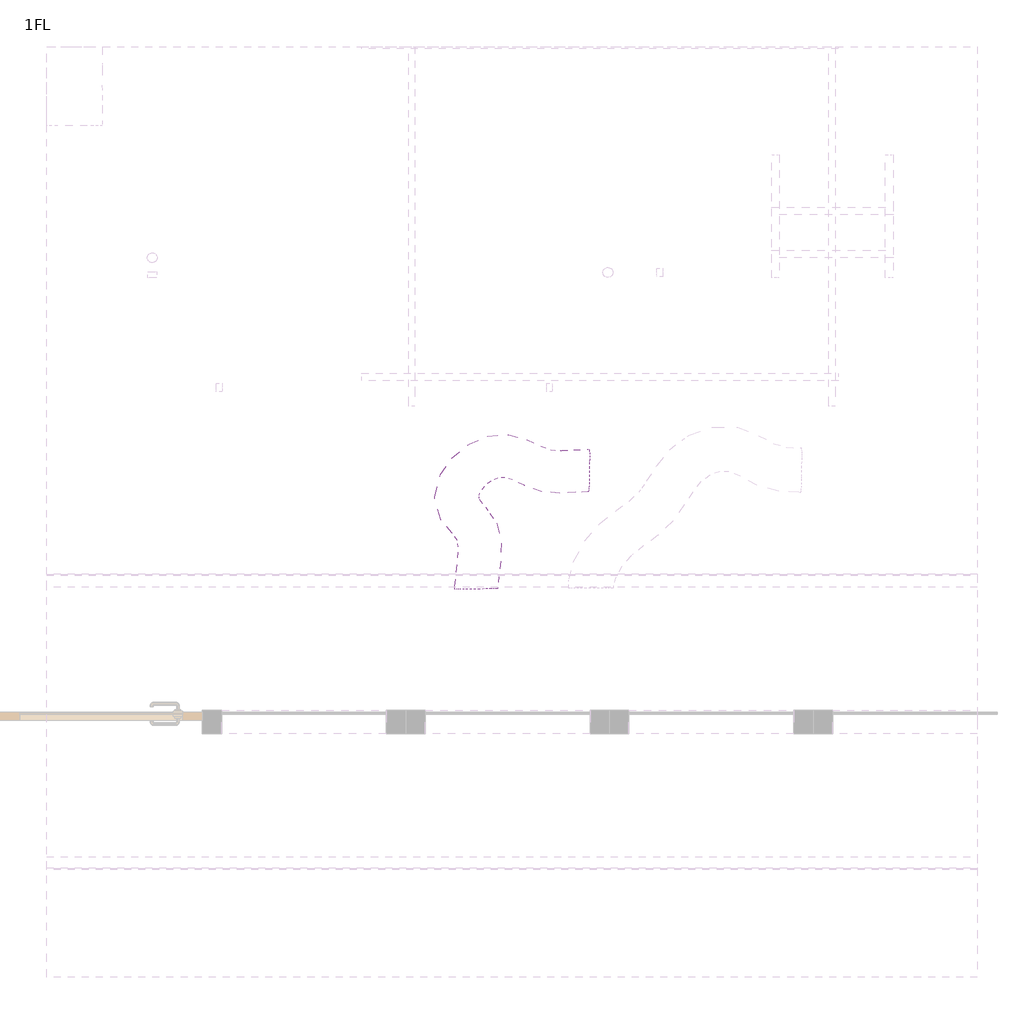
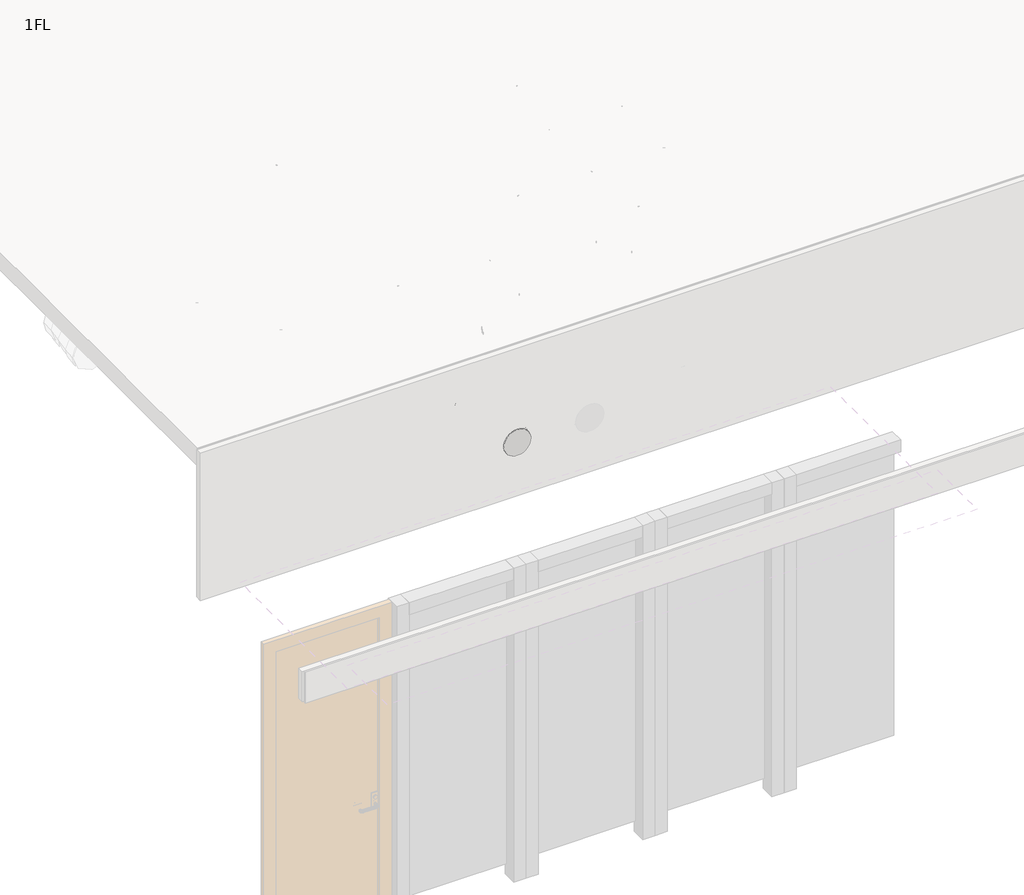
# One storey, part 6 of 13: 1 duct segment.
"""IFC4 building model written with IfcOpenShell, lengths in millimetres."""

from ifc_helpers import new_model, si_unit, frame, origin, place, context, project, spatial, circle_curve, ellipse_curve, element, save
from ifc_brep_helpers import plane_surface, cylinder_surface, advanced_brep

model = new_model("IFC4")

# Units and contexts
model_context = context("Model", 3, world=origin())
ifc_project = project(units=[si_unit("LENGTHUNIT", "METRE", prefix="MILLI")], contexts=[model_context])

# Site, building, storey
site = spatial("IfcSite", under=ifc_project)
building = spatial("IfcBuilding", under=site)
storey = spatial("IfcBuildingStorey", under=building, Name="1FL", Elevation=500.0)

# Duct segment
placement = place(None, origin())
element("IfcDuctSegment", 1, ObjectType="フレキシブル - 円形", at=placement, inside=storey, context=model_context, shape_type="AdvancedBrep", body=[
    advanced_brep(
    [(14731.3428609, -3694.8580782, 3516.0799389), (14735.0189875, -3584.9041559, 3406.0952988), (14735.0192442, -3474.8887981, 3516.0799389), (14731.3431176, -3584.8427204, 3626.064579), (14726.4560319, -3694.7764038, 3515.9982531), (14731.3562958, -3584.8429407, 3406.0340751), (14723.0650908, -3474.6890063, 3515.8801193), (14718.1648269, -3584.6224695, 3625.8442973), (14215.0861552, -4195.0526918, 3575.1539181), (14242.3549173, -4194.7788256, 3728.3085445), (14089.2080144, -4196.3169138, 3755.5786819), (14061.9392522, -4196.59078, 3602.4240554), (14664.11511, -3697.7557669, 3509.5429814), (14673.0779562, -3587.628147, 3399.9994753), (14653.2321259, -3478.026425, 3508.6490622), (14644.2692797, -3588.1540448, 3618.1925683), (14582.291013, -3702.040029, 3496.3709836), (14598.6090432, -3591.527296, 3388.0115109), (14586.5977692, -3481.5153611, 3497.9223003), (14570.279739, -3592.0280941, 3606.281773), (14488.2661964, -3693.3071193, 3487.0941649), (14514.0158466, -3583.6703836, 3379.6652489), (14536.1792989, -3476.8325554, 3492.947837), (14510.4296487, -3586.4692911, 3600.3767529), (14401.5411536, -3662.292776, 3493.7276031), (14429.9221638, -3553.5970591, 3386.0974193), (14484.754004, -3458.4419994, 3496.8812627), (14456.3729938, -3567.1377163, 3604.5114465), (14336.903611, -3632.7646967, 3507.9315686), (14353.2894079, -3518.5892604, 3402.9373079), (14414.2247612, -3426.2224412, 3512.379917), (14397.8389643, -3540.3978776, 3617.3741777), (14293.3820285, -3620.3610371, 3519.6718595), (14280.3110521, -3497.7904145, 3422.6237962), (14320.6032421, -3399.5402897, 3537.6350618), (14333.6742184, -3522.1109123, 3634.683125), (14257.9533163, -3623.0055551, 3528.7814084), (14204.4915174, -3503.4498391, 3442.1187685), (14215.0613204, -3407.418293, 3564.7723536), (14268.5231193, -3526.974009, 3651.4349935), (14217.6624406, -3640.4058261, 3540.9281427), (14126.7012873, -3537.0448172, 3465.5706604), (14119.6925061, -3448.6048691, 3593.5237678), (14210.6536595, -3551.965878, 3668.8812501), (14177.2272489, -3673.9894551, 3559.0844322), (14056.1989612, -3595.6008389, 3497.2277538), (14041.6403729, -3513.4314169, 3628.5708905), (14162.6686606, -3591.8200331, 3690.4275689), (14148.4692287, -3715.8923626, 3580.4970543), (14003.7045128, -3672.0897627, 3536.3140253), (13984.8696041, -3596.151307, 3670.8412209), (14129.63432, -3639.9539069, 3715.0242499), (14139.6224004, -3750.6069368, 3597.56946), (13980.9211847, -3761.4905631, 3580.2807675), (13959.7160092, -3694.8529326, 3719.3820495), (14118.4172249, -3683.9693063, 3736.670742), (14146.9487655, -3776.1488206, 3609.6060384), (14005.489926, -3847.1444891, 3620.645065), (13988.2026504, -3794.1658207, 3766.1831145), (14129.6614898, -3723.1701522, 3755.1440879), (14177.6288835, -3813.1381235, 3623.510456), (14052.5330839, -3903.8617945, 3641.9653126), (14050.4444385, -3869.2072649, 3794.3914746), (14175.5402381, -3778.4835939, 3775.9366179), (14217.980166, -3870.970461, 3630.0285233), (14073.9160739, -3934.5083617, 3645.4193731), (14092.5408951, -3929.5408237, 3801.1914453), (14236.6049872, -3866.002923, 3785.8005956), (14234.7193099, -3946.8751763, 3619.935017), (14080.5464824, -3964.5743719, 3641.4213149), (14105.8500302, -3989.8919457, 3793.1661938), (14260.0228577, -3972.1927502, 3771.6798959), (14231.3825648, -4028.511694, 3601.1356085), (14078.2121834, -4021.6851314, 3628.2697435), (14103.1034296, -4057.0900396, 3777.6916922), (14256.2738111, -4063.9166023, 3750.5575573), (14220.7815867, -4111.7115795, 3583.1997862), (14068.1910226, -4100.3344239, 3611.3149156), (14094.0818725, -4127.8941215, 3762.4280963), (14246.6724366, -4139.2712771, 3734.3129669), (14214.9561627, -4182.1093866, 3575.1539181), (14061.7538017, -4178.1255397, 3602.4240554), (14089.122713, -4187.823485, 3755.5786819), (14242.325074, -4191.8073319, 3728.3085445)],
    [
        (0, 1, circle_curve(frame((14733.1810525, -3584.8734381, 3516.0799389), z_axis=(0.9997207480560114, -0.016708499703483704, 0.016710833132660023), x_axis=(-0.016710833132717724, -0.9998603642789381, 0.0)), 110.0)),
        (1, 2, circle_curve(frame((14733.1810525, -3584.8734381, 3516.0799389), z_axis=(0.9997207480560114, -0.016708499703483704, 0.016710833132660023), x_axis=(-0.016710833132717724, -0.9998603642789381, 0.0)), 110.0)),
        (2, 3, circle_curve(frame((14733.1810525, -3584.8734381, 3516.0799389), z_axis=(0.9997207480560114, -0.016708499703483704, 0.016710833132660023), x_axis=(-0.016710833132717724, -0.9998603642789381, 0.0)), 110.0)),
        (3, 0, circle_curve(frame((14733.1810525, -3584.8734381, 3516.0799389), z_axis=(0.9997207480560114, -0.016708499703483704, 0.016710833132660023), x_axis=(-0.016710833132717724, -0.9998603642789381, 0.0)), 110.0)),
        (0, 4),
        (4, 5, ellipse_curve(frame((14724.7605614, -3584.7327051, 3515.9391862), z_axis=(0.9980864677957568, 0.015409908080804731, 0.05988269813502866), x_axis=(0.05724402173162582, -0.596423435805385, -0.8006261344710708)), 110.1596253, 110.0)),
        (5, 1),
        (5, 6, ellipse_curve(frame((14724.7605614, -3584.7327051, 3515.9391862), z_axis=(0.9980864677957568, 0.015409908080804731, 0.05988269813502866), x_axis=(0.05724402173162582, -0.596423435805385, -0.8006261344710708)), 110.1596253, 110.0)),
        (6, 2),
        (6, 7, ellipse_curve(frame((14724.7605614, -3584.7327051, 3515.9391862), z_axis=(0.9980864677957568, 0.015409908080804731, 0.05988269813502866), x_axis=(0.05724402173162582, -0.596423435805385, -0.8006261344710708)), 110.1596253, 110.0)),
        (7, 3),
        (7, 4, ellipse_curve(frame((14724.7605614, -3584.7327051, 3515.9391862), z_axis=(0.9980864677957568, 0.015409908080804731, 0.05988269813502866), x_axis=(0.05724402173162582, -0.596423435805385, -0.8006261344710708)), 110.1596253, 110.0)),
        (8, 9, circle_curve(frame((14152.1470848, -4195.6848028, 3665.3663), z_axis=(0.010042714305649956, -0.9999495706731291, 0.0), x_axis=(0.5721733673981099, 0.005746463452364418, -0.8201125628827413)), 110.0)),
        (9, 10, circle_curve(frame((14152.1470848, -4195.6848028, 3665.3663), z_axis=(0.010042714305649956, -0.9999495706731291, 0.0), x_axis=(0.5721733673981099, 0.005746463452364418, -0.8201125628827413)), 110.0)),
        (10, 11, circle_curve(frame((14152.1470848, -4195.6848028, 3665.3663), z_axis=(0.010042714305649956, -0.9999495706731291, 0.0), x_axis=(0.5721733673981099, 0.005746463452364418, -0.8201125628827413)), 110.0)),
        (11, 8, circle_curve(frame((14152.1470848, -4195.6848028, 3665.3663), z_axis=(0.010042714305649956, -0.9999495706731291, 0.0), x_axis=(0.5721733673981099, 0.005746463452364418, -0.8201125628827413)), 110.0)),
        (4, 12),
        (12, 13, ellipse_curve(frame((14658.673618, -3587.8910959, 3509.0960218), z_axis=(0.9901614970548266, 0.0495740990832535, 0.13085342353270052), x_axis=(0.1342677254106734, -0.07329051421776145, -0.9882310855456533)), 110.043928, 110.0)),
        (13, 5),
        (13, 14, ellipse_curve(frame((14658.673618, -3587.8910959, 3509.0960218), z_axis=(0.9901614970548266, 0.0495740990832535, 0.13085342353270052), x_axis=(0.1342677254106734, -0.07329051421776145, -0.9882310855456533)), 110.043928, 110.0)),
        (14, 6),
        (14, 15, ellipse_curve(frame((14658.673618, -3587.8910959, 3509.0960218), z_axis=(0.9901614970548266, 0.0495740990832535, 0.13085342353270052), x_axis=(0.1342677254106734, -0.07329051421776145, -0.9882310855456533)), 110.043928, 110.0)),
        (15, 7),
        (15, 12, ellipse_curve(frame((14658.673618, -3587.8910959, 3509.0960218), z_axis=(0.9901614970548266, 0.0495740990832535, 0.13085342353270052), x_axis=(0.1342677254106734, -0.07329051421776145, -0.9882310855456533)), 110.043928, 110.0)),
        (12, 16),
        (16, 17, ellipse_curve(frame((14584.4443911, -3591.777695, 3497.1466419), z_axis=(0.9914844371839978, -0.02026821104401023, 0.12863829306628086), x_axis=(-0.03183888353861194, 0.9201068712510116, 0.390371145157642)), 110.3367476, 110.0)),
        (17, 13),
        (17, 18, ellipse_curve(frame((14584.4443911, -3591.777695, 3497.1466419), z_axis=(0.9914844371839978, -0.02026821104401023, 0.12863829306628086), x_axis=(-0.03183888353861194, 0.9201068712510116, 0.390371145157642)), 110.3367476, 110.0)),
        (18, 14),
        (18, 19, ellipse_curve(frame((14584.4443911, -3591.777695, 3497.1466419), z_axis=(0.9914844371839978, -0.02026821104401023, 0.12863829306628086), x_axis=(-0.03183888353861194, 0.9201068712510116, 0.390371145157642)), 110.3367476, 110.0)),
        (19, 15),
        (19, 16, ellipse_curve(frame((14584.4443911, -3591.777695, 3497.1466419), z_axis=(0.9914844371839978, -0.02026821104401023, 0.12863829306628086), x_axis=(-0.03183888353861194, 0.9201068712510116, 0.390371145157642)), 110.3367476, 110.0)),
        (16, 20),
        (20, 21, ellipse_curve(frame((14512.2227476, -3585.0698373, 3490.0210009), z_axis=(0.9762115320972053, -0.21642315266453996, 0.013117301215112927), x_axis=(0.17173353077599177, 0.8087278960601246, 0.562553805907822)), 111.2715489, 110.0)),
        (21, 17),
        (21, 22, ellipse_curve(frame((14512.2227476, -3585.0698373, 3490.0210009), z_axis=(0.9762115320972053, -0.21642315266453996, 0.013117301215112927), x_axis=(0.17173353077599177, 0.8087278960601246, 0.562553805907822)), 111.2715489, 110.0)),
        (22, 18),
        (22, 23, ellipse_curve(frame((14512.2227476, -3585.0698373, 3490.0210009), z_axis=(0.9762115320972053, -0.21642315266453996, 0.013117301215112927), x_axis=(0.17173353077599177, 0.8087278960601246, 0.562553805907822)), 111.2715489, 110.0)),
        (23, 19),
        (23, 20, ellipse_curve(frame((14512.2227476, -3585.0698373, 3490.0210009), z_axis=(0.9762115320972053, -0.21642315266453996, 0.013117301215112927), x_axis=(0.17173353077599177, 0.8087278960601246, 0.562553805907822)), 111.2715489, 110.0)),
        (20, 24),
        (24, 25, ellipse_curve(frame((14443.1475788, -3560.3673877, 3495.3044329), z_axis=(0.9181718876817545, -0.37272440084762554, -0.134301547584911), x_axis=(0.3129453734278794, 0.47444422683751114, 0.8227805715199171)), 110.3144893, 110.0)),
        (25, 21),
        (25, 26, ellipse_curve(frame((14443.1475788, -3560.3673877, 3495.3044329), z_axis=(0.9181718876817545, -0.37272440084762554, -0.134301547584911), x_axis=(0.3129453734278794, 0.47444422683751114, 0.8227805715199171)), 110.3144893, 110.0)),
        (26, 22),
        (26, 27, ellipse_curve(frame((14443.1475788, -3560.3673877, 3495.3044329), z_axis=(0.9181718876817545, -0.37272440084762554, -0.134301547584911), x_axis=(0.3129453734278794, 0.47444422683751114, 0.8227805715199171)), 110.3144893, 110.0)),
        (27, 23),
        (27, 24, ellipse_curve(frame((14443.1475788, -3560.3673877, 3495.3044329), z_axis=(0.9181718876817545, -0.37272440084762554, -0.134301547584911), x_axis=(0.3129453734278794, 0.47444422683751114, 0.8227805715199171)), 110.3144893, 110.0)),
        (24, 28),
        (28, 29, ellipse_curve(frame((14375.5641861, -3529.493569, 3510.1557428), z_axis=(0.9142495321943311, -0.33742861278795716, -0.22425370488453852), x_axis=(-0.2475082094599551, -0.9033723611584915, 0.35022573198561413)), 110.3420832, 110.0)),
        (29, 25),
        (29, 30, ellipse_curve(frame((14375.5641861, -3529.493569, 3510.1557428), z_axis=(0.9142495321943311, -0.33742861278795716, -0.22425370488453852), x_axis=(-0.2475082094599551, -0.9033723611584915, 0.35022573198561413)), 110.3420832, 110.0)),
        (30, 26),
        (30, 31, ellipse_curve(frame((14375.5641861, -3529.493569, 3510.1557428), z_axis=(0.9142495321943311, -0.33742861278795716, -0.22425370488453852), x_axis=(-0.2475082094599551, -0.9033723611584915, 0.35022573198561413)), 110.3420832, 110.0)),
        (31, 27),
        (31, 28, ellipse_curve(frame((14375.5641861, -3529.493569, 3510.1557428), z_axis=(0.9142495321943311, -0.33742861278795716, -0.22425370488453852), x_axis=(-0.2475082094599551, -0.9033723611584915, 0.35022573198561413)), 110.3420832, 110.0)),
        (28, 32),
        (32, 33, ellipse_curve(frame((14306.9926353, -3509.9506634, 3528.6534606), z_axis=(0.962378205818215, -0.09802032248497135, -0.25341705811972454), x_axis=(-0.10342918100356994, -0.99460403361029, -0.008075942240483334)), 111.6173672, 110.0)),
        (33, 29),
        (33, 34, ellipse_curve(frame((14306.9926353, -3509.9506634, 3528.6534606), z_axis=(0.962378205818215, -0.09802032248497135, -0.25341705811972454), x_axis=(-0.10342918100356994, -0.99460403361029, -0.008075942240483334)), 111.6173672, 110.0)),
        (34, 30),
        (34, 35, ellipse_curve(frame((14306.9926353, -3509.9506634, 3528.6534606), z_axis=(0.962378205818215, -0.09802032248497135, -0.25341705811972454), x_axis=(-0.10342918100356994, -0.99460403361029, -0.008075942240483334)), 111.6173672, 110.0)),
        (35, 31),
        (35, 32, ellipse_curve(frame((14306.9926353, -3509.9506634, 3528.6534606), z_axis=(0.962378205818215, -0.09802032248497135, -0.25341705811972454), x_axis=(-0.10342918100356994, -0.99460403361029, -0.008075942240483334)), 111.6173672, 110.0)),
        (32, 36),
        (36, 37, ellipse_curve(frame((14236.5073183, -3515.211924, 3546.776881), z_axis=(0.9375335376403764, 0.23008867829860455, -0.2609407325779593), x_axis=(0.25294762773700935, -0.9657865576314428, 0.05721732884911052)), 111.4446653, 110.0)),
        (37, 33),
        (37, 38, ellipse_curve(frame((14236.5073183, -3515.211924, 3546.776881), z_axis=(0.9375335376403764, 0.23008867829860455, -0.2609407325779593), x_axis=(0.25294762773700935, -0.9657865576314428, 0.05721732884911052)), 111.4446653, 110.0)),
        (38, 34),
        (38, 39, ellipse_curve(frame((14236.5073183, -3515.211924, 3546.776881), z_axis=(0.9375335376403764, 0.23008867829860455, -0.2609407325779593), x_axis=(0.25294762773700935, -0.9657865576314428, 0.05721732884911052)), 111.4446653, 110.0)),
        (39, 35),
        (39, 36, ellipse_curve(frame((14236.5073183, -3515.211924, 3546.776881), z_axis=(0.9375335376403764, 0.23008867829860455, -0.2609407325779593), x_axis=(0.25294762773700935, -0.9657865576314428, 0.05721732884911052)), 111.4446653, 110.0)),
        (36, 40),
        (40, 41, ellipse_curve(frame((14168.6774734, -3544.5053476, 3567.2259553), z_axis=(0.8138856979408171, 0.4978632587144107, -0.2995367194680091), x_axis=(0.5659045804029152, -0.7960911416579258, 0.2144548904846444)), 111.0831329, 110.0)),
        (41, 37),
        (41, 42, ellipse_curve(frame((14168.6774734, -3544.5053476, 3567.2259553), z_axis=(0.8138856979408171, 0.4978632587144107, -0.2995367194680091), x_axis=(0.5659045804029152, -0.7960911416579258, 0.2144548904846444)), 111.0831329, 110.0)),
        (42, 38),
        (42, 43, ellipse_curve(frame((14168.6774734, -3544.5053476, 3567.2259553), z_axis=(0.8138856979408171, 0.4978632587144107, -0.2995367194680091), x_axis=(0.5659045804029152, -0.7960911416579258, 0.2144548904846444)), 111.0831329, 110.0)),
        (43, 39),
        (43, 40, ellipse_curve(frame((14168.6774734, -3544.5053476, 3567.2259553), z_axis=(0.8138856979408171, 0.4978632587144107, -0.2995367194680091), x_axis=(0.5659045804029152, -0.7960911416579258, 0.2144548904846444)), 111.0831329, 110.0)),
        (40, 44),
        (44, 45, ellipse_curve(frame((14109.4338109, -3593.710436, 3593.8276614), z_axis=(0.6298582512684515, 0.687945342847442, -0.3605687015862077), x_axis=(0.7749887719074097, -0.5875289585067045, 0.23281350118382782)), 110.981206, 110.0)),
        (45, 41),
        (45, 46, ellipse_curve(frame((14109.4338109, -3593.710436, 3593.8276614), z_axis=(0.6298582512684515, 0.687945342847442, -0.3605687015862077), x_axis=(0.7749887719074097, -0.5875289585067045, 0.23281350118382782)), 110.981206, 110.0)),
        (46, 42),
        (46, 47, ellipse_curve(frame((14109.4338109, -3593.710436, 3593.8276614), z_axis=(0.6298582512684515, 0.687945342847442, -0.3605687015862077), x_axis=(0.7749887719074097, -0.5875289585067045, 0.23281350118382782)), 110.981206, 110.0)),
        (47, 43),
        (47, 44, ellipse_curve(frame((14109.4338109, -3593.710436, 3593.8276614), z_axis=(0.6298582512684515, 0.687945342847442, -0.3605687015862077), x_axis=(0.7749887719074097, -0.5875289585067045, 0.23281350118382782)), 110.981206, 110.0)),
        (44, 48),
        (48, 49, ellipse_curve(frame((14066.6694164, -3656.0218348, 3625.6691376), z_axis=(0.3771366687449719, 0.8281405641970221, -0.41466991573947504), x_axis=(0.9252889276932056, -0.3562947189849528, 0.12997874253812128)), 111.4598582, 110.0)),
        (49, 45),
        (49, 50, ellipse_curve(frame((14066.6694164, -3656.0218348, 3625.6691376), z_axis=(0.3771366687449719, 0.8281405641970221, -0.41466991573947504), x_axis=(0.9252889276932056, -0.3562947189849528, 0.12997874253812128)), 111.4598582, 110.0)),
        (50, 46),
        (50, 51, ellipse_curve(frame((14066.6694164, -3656.0218348, 3625.6691376), z_axis=(0.3771366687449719, 0.8281405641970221, -0.41466991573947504), x_axis=(0.9252889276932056, -0.3562947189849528, 0.12997874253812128)), 111.4598582, 110.0)),
        (51, 47),
        (51, 48, ellipse_curve(frame((14066.6694164, -3656.0218348, 3625.6691376), z_axis=(0.3771366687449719, 0.8281405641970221, -0.41466991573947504), x_axis=(0.9252889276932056, -0.3562947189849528, 0.12997874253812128)), 111.4598582, 110.0)),
        (48, 52),
        (52, 53, ellipse_curve(frame((14049.6692048, -3722.7299347, 3658.4757547), z_axis=(-0.014525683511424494, 0.9008943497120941, -0.43379531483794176), x_axis=(0.9993113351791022, -0.0017350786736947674, -0.037065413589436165)), 113.2316828, 110.0)),
        (53, 49),
        (53, 54, ellipse_curve(frame((14049.6692048, -3722.7299347, 3658.4757547), z_axis=(-0.014525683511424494, 0.9008943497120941, -0.43379531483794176), x_axis=(0.9993113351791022, -0.0017350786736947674, -0.037065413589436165)), 113.2316828, 110.0)),
        (54, 50),
        (54, 55, ellipse_curve(frame((14049.6692048, -3722.7299347, 3658.4757547), z_axis=(-0.014525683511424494, 0.9008943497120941, -0.43379531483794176), x_axis=(0.9993113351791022, -0.0017350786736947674, -0.037065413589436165)), 113.2316828, 110.0)),
        (55, 51),
        (55, 52, ellipse_curve(frame((14049.6692048, -3722.7299347, 3658.4757547), z_axis=(-0.014525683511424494, 0.9008943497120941, -0.43379531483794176), x_axis=(0.9993113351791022, -0.0017350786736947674, -0.037065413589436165)), 113.2316828, 110.0)),
        (52, 56),
        (56, 57, ellipse_curve(frame((14067.5757079, -3785.1573206, 3687.8945764), z_axis=(-0.44156747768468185, 0.8249733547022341, -0.3527564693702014), x_axis=(0.8839235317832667, 0.3325313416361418, -0.3287888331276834)), 112.382742, 110.0)),
        (57, 53),
        (57, 58, ellipse_curve(frame((14067.5757079, -3785.1573206, 3687.8945764), z_axis=(-0.44156747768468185, 0.8249733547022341, -0.3527564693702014), x_axis=(0.8839235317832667, 0.3325313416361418, -0.3287888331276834)), 112.382742, 110.0)),
        (58, 54),
        (58, 59, ellipse_curve(frame((14067.5757079, -3785.1573206, 3687.8945764), z_axis=(-0.44156747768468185, 0.8249733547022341, -0.3527564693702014), x_axis=(0.8839235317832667, 0.3325313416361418, -0.3287888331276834)), 112.382742, 110.0)),
        (59, 55),
        (59, 56, ellipse_curve(frame((14067.5757079, -3785.1573206, 3687.8945764), z_axis=(-0.44156747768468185, 0.8249733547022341, -0.3527564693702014), x_axis=(0.8839235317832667, 0.3325313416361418, -0.3287888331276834)), 112.382742, 110.0)),
        (56, 60),
        (60, 61, ellipse_curve(frame((14114.036661, -3841.1726942, 3708.9509653), z_axis=(-0.5946815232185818, 0.7821556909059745, -0.18597408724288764), x_axis=(-0.21109638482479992, -0.3751163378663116, -0.9026217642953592)), 110.5878813, 110.0)),
        (61, 57),
        (61, 62, ellipse_curve(frame((14114.036661, -3841.1726942, 3708.9509653), z_axis=(-0.5946815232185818, 0.7821556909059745, -0.18597408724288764), x_axis=(-0.21109638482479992, -0.3751163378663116, -0.9026217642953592)), 110.5878813, 110.0)),
        (62, 58),
        (62, 63, ellipse_curve(frame((14114.036661, -3841.1726942, 3708.9509653), z_axis=(-0.5946815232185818, 0.7821556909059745, -0.18597408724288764), x_axis=(-0.21109638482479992, -0.3751163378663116, -0.9026217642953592)), 110.5878813, 110.0)),
        (63, 59),
        (63, 60, ellipse_curve(frame((14114.036661, -3841.1726942, 3708.9509653), z_axis=(-0.5946815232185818, 0.7821556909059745, -0.18597408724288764), x_axis=(-0.21109638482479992, -0.3751163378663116, -0.9026217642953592)), 110.5878813, 110.0)),
        (60, 64),
        (64, 65, ellipse_curve(frame((14155.2605306, -3900.2556423, 3715.6099843), z_axis=(-0.4017775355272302, 0.9155434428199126, 0.01884187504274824), x_axis=(-0.7991581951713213, -0.34050807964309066, -0.4953790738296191)), 112.8381686, 110.0)),
        (65, 61),
        (65, 66, ellipse_curve(frame((14155.2605306, -3900.2556423, 3715.6099843), z_axis=(-0.4017775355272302, 0.9155434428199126, 0.01884187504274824), x_axis=(-0.7991581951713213, -0.34050807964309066, -0.4953790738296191)), 112.8381686, 110.0)),
        (66, 62),
        (66, 67, ellipse_curve(frame((14155.2605306, -3900.2556423, 3715.6099843), z_axis=(-0.4017775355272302, 0.9155434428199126, 0.01884187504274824), x_axis=(-0.7991581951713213, -0.34050807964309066, -0.4953790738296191)), 112.8381686, 110.0)),
        (67, 63),
        (67, 64, ellipse_curve(frame((14155.2605306, -3900.2556423, 3715.6099843), z_axis=(-0.4017775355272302, 0.9155434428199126, 0.01884187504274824), x_axis=(-0.7991581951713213, -0.34050807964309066, -0.4953790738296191)), 112.8381686, 110.0)),
        (64, 68),
        (68, 69, ellipse_curve(frame((14170.2846701, -3968.383561, 3706.5506054), z_axis=(-0.08768834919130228, 0.980089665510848, 0.17814320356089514), x_axis=(-0.9356059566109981, -0.019637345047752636, -0.3524994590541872)), 111.0223865, 110.0)),
        (69, 65),
        (69, 70, ellipse_curve(frame((14170.2846701, -3968.383561, 3706.5506054), z_axis=(-0.08768834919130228, 0.980089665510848, 0.17814320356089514), x_axis=(-0.9356059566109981, -0.019637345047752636, -0.3524994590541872)), 111.0223865, 110.0)),
        (70, 66),
        (70, 71, ellipse_curve(frame((14170.2846701, -3968.383561, 3706.5506054), z_axis=(-0.08768834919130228, 0.980089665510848, 0.17814320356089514), x_axis=(-0.9356059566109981, -0.019637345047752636, -0.3524994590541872)), 111.0223865, 110.0)),
        (71, 67),
        (71, 68, ellipse_curve(frame((14170.2846701, -3968.383561, 3706.5506054), z_axis=(-0.08768834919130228, 0.980089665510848, 0.17814320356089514), x_axis=(-0.9356059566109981, -0.019637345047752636, -0.3524994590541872)), 111.0223865, 110.0)),
        (68, 72),
        (72, 73, ellipse_curve(frame((14167.2429972, -4042.8008668, 3689.4136504), z_axis=(0.08177357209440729, 0.9727691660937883, 0.2168714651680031), x_axis=(-0.9832094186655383, 0.04312065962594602, 0.17731285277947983)), 110.1000214, 110.0)),
        (73, 69),
        (73, 74, ellipse_curve(frame((14167.2429972, -4042.8008668, 3689.4136504), z_axis=(0.08177357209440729, 0.9727691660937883, 0.2168714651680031), x_axis=(-0.9832094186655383, 0.04312065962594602, 0.17731285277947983)), 110.1000214, 110.0)),
        (74, 70),
        (74, 75, ellipse_curve(frame((14167.2429972, -4042.8008668, 3689.4136504), z_axis=(0.08177357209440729, 0.9727691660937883, 0.2168714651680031), x_axis=(-0.9832094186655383, 0.04312065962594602, 0.17731285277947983)), 110.1000214, 110.0)),
        (75, 71),
        (75, 72, ellipse_curve(frame((14167.2429972, -4042.8008668, 3689.4136504), z_axis=(0.08177357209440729, 0.9727691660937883, 0.2168714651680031), x_axis=(-0.9832094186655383, 0.04312065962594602, 0.17731285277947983)), 110.1000214, 110.0)),
        (72, 76),
        (76, 77, ellipse_curve(frame((14157.4317296, -4119.8028505, 3672.8139413), z_axis=(0.10291497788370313, 0.9815126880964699, 0.1613733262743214), x_axis=(0.3910949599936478, -0.1890967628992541, 0.9007147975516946)), 110.156359, 110.0)),
        (77, 73),
        (77, 78, ellipse_curve(frame((14157.4317296, -4119.8028505, 3672.8139413), z_axis=(0.10291497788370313, 0.9815126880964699, 0.1613733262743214), x_axis=(0.3910949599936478, -0.1890967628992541, 0.9007147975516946)), 110.156359, 110.0)),
        (78, 74),
        (78, 79, ellipse_curve(frame((14157.4317296, -4119.8028505, 3672.8139413), z_axis=(0.10291497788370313, 0.9815126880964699, 0.1613733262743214), x_axis=(0.3910949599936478, -0.1890967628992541, 0.9007147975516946)), 110.156359, 110.0)),
        (79, 75),
        (79, 76, ellipse_curve(frame((14157.4317296, -4119.8028505, 3672.8139413), z_axis=(0.10291497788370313, 0.9815126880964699, 0.1613733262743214), x_axis=(0.3910949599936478, -0.1890967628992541, 0.9007147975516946)), 110.156359, 110.0)),
        (76, 80),
        (80, 81, ellipse_curve(frame((14152.0394378, -4184.9664358, 3665.3663), z_axis=(0.03604422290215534, 0.997738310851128, 0.05673691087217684), x_axis=(0.6293099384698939, -0.06676431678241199, 0.7742812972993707)), 110.2949271, 110.0)),
        (81, 77),
        (81, 82, ellipse_curve(frame((14152.0394378, -4184.9664358, 3665.3663), z_axis=(0.03604422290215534, 0.997738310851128, 0.05673691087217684), x_axis=(0.6293099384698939, -0.06676431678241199, 0.7742812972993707)), 110.2949271, 110.0)),
        (82, 78),
        (82, 83, ellipse_curve(frame((14152.0394378, -4184.9664358, 3665.3663), z_axis=(0.03604422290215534, 0.997738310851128, 0.05673691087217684), x_axis=(0.6293099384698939, -0.06676431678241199, 0.7742812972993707)), 110.2949271, 110.0)),
        (83, 79),
        (83, 80, ellipse_curve(frame((14152.0394378, -4184.9664358, 3665.3663), z_axis=(0.03604422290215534, 0.997738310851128, 0.05673691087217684), x_axis=(0.6293099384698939, -0.06676431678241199, 0.7742812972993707)), 110.2949271, 110.0)),
        (80, 8),
        (11, 81),
        (10, 82),
        (9, 83),
    ],
    [
        plane_surface(frame((14733.1810525, -3507.0862615, 3593.8562537), z_axis=(0.9997207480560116, -0.01670849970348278, 0.016710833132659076), x_axis=(0.023631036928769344, 0.7068599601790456, -0.7069586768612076))),
        cylinder_surface(frame((14733.1810525, -3584.8734381, 3516.0799389), z_axis=(0.9997207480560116, -0.016708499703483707, 0.016710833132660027), x_axis=(-0.016710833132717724, -0.9998603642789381, 0.0)), 110.0),
        plane_surface(frame((14152.1470848, -4195.6848028, 3555.3663), z_axis=(0.010042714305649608, -0.9999495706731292, 0.0), x_axis=(0.9999495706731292, 0.010042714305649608, 0.0))),
        cylinder_surface(frame((14724.7605614, -3584.7327051, 3515.9391862), z_axis=(0.993559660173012, 0.047483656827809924, 0.10288101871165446), x_axis=(0.04733959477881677, -0.9988714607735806, 0.003842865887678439)), 110.0),
        cylinder_surface(frame((14658.673618, -3587.8910959, 3509.0960218), z_axis=(0.9859728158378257, 0.05162496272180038, 0.15872135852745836), x_axis=(0.0515803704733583, -0.9986591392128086, 0.004403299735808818)), 110.0),
        cylinder_surface(frame((14584.4443911, -3591.777695, 3497.1466419), z_axis=(0.9909440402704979, -0.09203766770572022, 0.09777001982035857), x_axis=(-0.0910914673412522, -0.9957426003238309, -0.014107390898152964)), 110.0),
        cylinder_surface(frame((14512.2227476, -3585.0698373, 3490.0210009), z_axis=(0.9391678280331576, -0.3358623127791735, -0.07183521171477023), x_axis=(-0.3378624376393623, -0.9410342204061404, -0.01742323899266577)), 110.0),
        cylinder_surface(frame((14443.1475788, -3560.3673877, 3495.3044329), z_axis=(0.8919408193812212, -0.4074613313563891, -0.19600213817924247), x_axis=(-0.4165875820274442, -0.9090763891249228, -0.005908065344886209)), 110.0),
        cylinder_surface(frame((14375.5641861, -3529.493569, 3510.1557428), z_axis=(0.9308895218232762, -0.2653036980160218, -0.25111480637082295), x_axis=(-0.2834880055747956, -0.9582004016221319, -0.03855568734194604)), 110.0),
        cylinder_surface(frame((14306.9926353, -3509.9506634, 3528.6534606), z_axis=(0.9659766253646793, 0.07210373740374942, -0.24837514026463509), x_axis=(0.04204392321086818, -0.9913565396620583, -0.12427598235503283)), 110.0),
        cylinder_surface(frame((14236.5073183, -3515.211924, 3546.776881), z_axis=(0.8847838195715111, 0.38210830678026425, -0.26674113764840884), x_axis=(0.335030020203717, -0.9194521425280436, -0.20582187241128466)), 110.0),
        cylinder_surface(frame((14168.6774734, -3544.5053476, 3567.2259553), z_axis=(0.7271157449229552, 0.603909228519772, -0.3264909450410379), x_axis=(0.5359525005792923, -0.7965455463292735, -0.27976795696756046)), 110.0),
        cylinder_surface(frame((14109.4338109, -3593.710436, 3593.8276614), z_axis=(0.521463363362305, 0.759816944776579, -0.3882707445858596), x_axis=(0.6739294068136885, -0.6458440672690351, -0.3587542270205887)), 110.0),
        cylinder_surface(frame((14066.6694164, -3656.0218348, 3625.6691376), z_axis=(0.22293079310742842, 0.8747708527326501, -0.4302067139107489), x_axis=(0.773434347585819, -0.4273448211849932, -0.4681620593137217)), 110.0),
        cylinder_surface(frame((14049.6692048, -3722.7299347, 3658.4757547), z_axis=(-0.251153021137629, 0.8755939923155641, -0.41262249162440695), x_axis=(0.7678233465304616, -0.07934610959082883, -0.6357291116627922)), 110.0),
        cylinder_surface(frame((14067.5757079, -3785.1573206, 3687.8945764), z_axis=(-0.6132576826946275, 0.7393705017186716, -0.27793214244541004), x_axis=(0.6086411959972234, 0.21805131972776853, -0.7628954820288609)), 110.0),
        cylinder_surface(frame((14114.036661, -3841.1726942, 3708.9509653), z_axis=(-0.5697827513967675, 0.8166250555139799, -0.09203876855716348), x_axis=(0.5497453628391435, 0.2955141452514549, -0.7813139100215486)), 110.0),
        cylinder_surface(frame((14155.2605306, -3900.2556423, 3715.6099843), z_axis=(-0.213560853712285, 0.9684053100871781, 0.12877467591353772), x_axis=(0.5778370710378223, 0.23150066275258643, -0.7826313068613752)), 110.0),
        cylinder_surface(frame((14170.2846701, -3968.383561, 3706.5506054), z_axis=(0.03979916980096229, 0.9737230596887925, 0.22423074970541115), x_axis=(0.5842911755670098, 0.1593633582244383, -0.7957431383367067)), 110.0),
        cylinder_surface(frame((14167.2429972, -4042.8008668, 3689.4136504), z_axis=(0.12359939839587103, 0.9700478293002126, 0.20911814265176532), x_axis=(0.5793472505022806, 0.10055098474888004, -0.8088549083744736)), 110.0),
        cylinder_surface(frame((14157.4317296, -4119.8028505, 3672.8139413), z_axis=(0.08193839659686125, 0.9901911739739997, 0.11317039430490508), x_axis=(0.5736276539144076, 0.046002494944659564, -0.8178233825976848)), 110.0),
        cylinder_surface(frame((14152.0394378, -4184.9664358, 3665.3663), z_axis=(-0.010042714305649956, 0.9999495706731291, 0.0), x_axis=(0.5721733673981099, 0.005746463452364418, -0.8201125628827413)), 110.0),
    ],
    [
        (0, [[1, 2, 3, 4]]),
        (1, [[-1, 5, 6, 7]]),
        (1, [[-2, -7, 8, 9]]),
        (1, [[-3, -9, 10, 11]]),
        (1, [[-4, -11, 12, -5]]),
        (2, [[13, 14, 15, 16]]),
        (3, [[-6, 17, 18, 19]]),
        (3, [[-8, -19, 20, 21]]),
        (3, [[-10, -21, 22, 23]]),
        (3, [[-12, -23, 24, -17]]),
        (4, [[-18, 25, 26, 27]]),
        (4, [[-20, -27, 28, 29]]),
        (4, [[-22, -29, 30, 31]]),
        (4, [[-24, -31, 32, -25]]),
        (5, [[-26, 33, 34, 35]]),
        (5, [[-28, -35, 36, 37]]),
        (5, [[-30, -37, 38, 39]]),
        (5, [[-32, -39, 40, -33]]),
        (6, [[-34, 41, 42, 43]]),
        (6, [[-36, -43, 44, 45]]),
        (6, [[-38, -45, 46, 47]]),
        (6, [[-40, -47, 48, -41]]),
        (7, [[-42, 49, 50, 51]]),
        (7, [[-44, -51, 52, 53]]),
        (7, [[-46, -53, 54, 55]]),
        (7, [[-48, -55, 56, -49]]),
        (8, [[-50, 57, 58, 59]]),
        (8, [[-52, -59, 60, 61]]),
        (8, [[-54, -61, 62, 63]]),
        (8, [[-56, -63, 64, -57]]),
        (9, [[-58, 65, 66, 67]]),
        (9, [[-60, -67, 68, 69]]),
        (9, [[-62, -69, 70, 71]]),
        (9, [[-64, -71, 72, -65]]),
        (10, [[-66, 73, 74, 75]]),
        (10, [[-68, -75, 76, 77]]),
        (10, [[-70, -77, 78, 79]]),
        (10, [[-72, -79, 80, -73]]),
        (11, [[-74, 81, 82, 83]]),
        (11, [[-76, -83, 84, 85]]),
        (11, [[-78, -85, 86, 87]]),
        (11, [[-80, -87, 88, -81]]),
        (12, [[-82, 89, 90, 91]]),
        (12, [[-84, -91, 92, 93]]),
        (12, [[-86, -93, 94, 95]]),
        (12, [[-88, -95, 96, -89]]),
        (13, [[-90, 97, 98, 99]]),
        (13, [[-92, -99, 100, 101]]),
        (13, [[-94, -101, 102, 103]]),
        (13, [[-96, -103, 104, -97]]),
        (14, [[-98, 105, 106, 107]]),
        (14, [[-100, -107, 108, 109]]),
        (14, [[-102, -109, 110, 111]]),
        (14, [[-104, -111, 112, -105]]),
        (15, [[-106, 113, 114, 115]]),
        (15, [[-108, -115, 116, 117]]),
        (15, [[-110, -117, 118, 119]]),
        (15, [[-112, -119, 120, -113]]),
        (16, [[-114, 121, 122, 123]]),
        (16, [[-116, -123, 124, 125]]),
        (16, [[-118, -125, 126, 127]]),
        (16, [[-120, -127, 128, -121]]),
        (17, [[-122, 129, 130, 131]]),
        (17, [[-124, -131, 132, 133]]),
        (17, [[-126, -133, 134, 135]]),
        (17, [[-128, -135, 136, -129]]),
        (18, [[-130, 137, 138, 139]]),
        (18, [[-132, -139, 140, 141]]),
        (18, [[-134, -141, 142, 143]]),
        (18, [[-136, -143, 144, -137]]),
        (19, [[-138, 145, 146, 147]]),
        (19, [[-140, -147, 148, 149]]),
        (19, [[-142, -149, 150, 151]]),
        (19, [[-144, -151, 152, -145]]),
        (20, [[-146, 153, 154, 155]]),
        (20, [[-148, -155, 156, 157]]),
        (20, [[-150, -157, 158, 159]]),
        (20, [[-152, -159, 160, -153]]),
        (21, [[-154, 161, -16, 162]]),
        (21, [[-156, -162, -15, 163]]),
        (21, [[-158, -163, -14, 164]]),
        (21, [[-160, -164, -13, -161]]),
    ],
),
])

save(model, "model.ifc")
